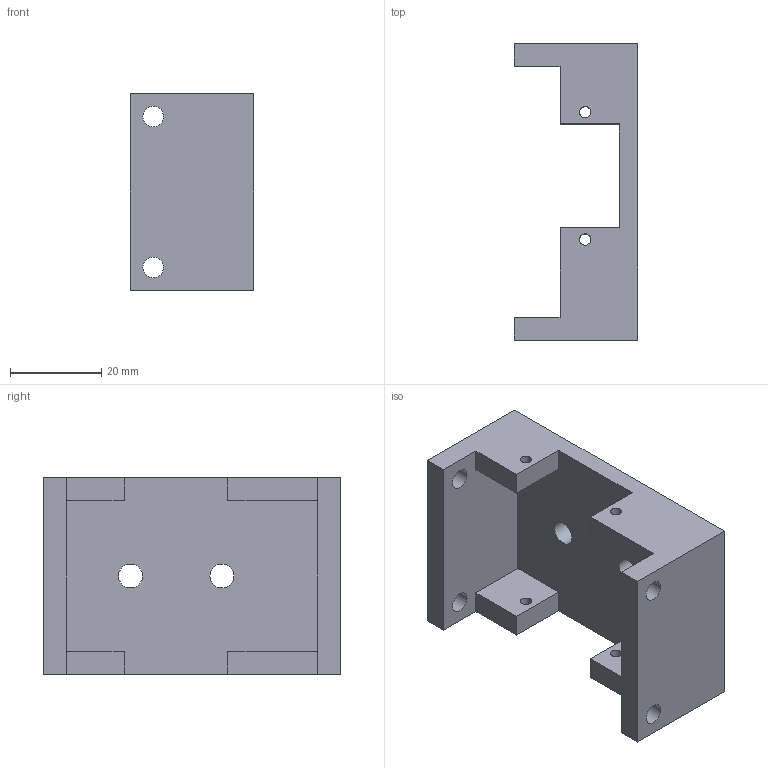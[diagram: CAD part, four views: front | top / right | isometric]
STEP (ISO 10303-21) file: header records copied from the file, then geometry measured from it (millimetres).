
FILE_DESCRIPTION(/* description */ ('STEP AP242 Edition 2','CAx-IF Rec.Pracs.---Representation and Presentation of Product Manufacturing Information (PMI)---4.0---2014-10-13','CAx-IF Rec.Pracs.---3D Tessellated Geometry---0.4---2014-09-14','2;1','CAx-IF Rec.Pracs.---User Defined Attributes---1.5---2016-08-15'),/* implementation_level */ '2;1');
FILE_NAME(/* name */ 'Final Build - pen carriage S',/* time_stamp */ '2026-08-31T23:26:25Z',/* author */ (''),/* organization */ (''),/* preprocessor_version */ 'ST-DEVELOPER v20',/* originating_system */ 'ONSHAPE BY PTC INC, 1.220',/* authorisation */ ' ');
FILE_SCHEMA (('AP242_MANAGED_MODEL_BASED_3D_ENGINEERING_MIM_LF { 1 0 10303 442 3 1 4 }'));
Length unit declared in the file: metre
Products named in the file (1): pen carriage S
Bounding box: 27 x 64.9 x 43 mm (x, y, z)
Volume: 24649.4 mm3; surface area: 12853.7 mm2
Topology: 1 solids, 1 shells, 32 faces, 96 edges, 66 vertices
Faces by surface type: plane 22, cylinder 10
Full cylindrical faces by diameter (mm): 2.5 x4, 4.5 x4, 5.25 x2
Entity records: 1046 total; most frequent: CARTESIAN_POINT 173, DIRECTION 166, ORIENTED_EDGE 160, EDGE_CURVE 80, EDGE_LOOP 62, FACE_BOUND 62, VERTEX_POINT 60, LINE 60
